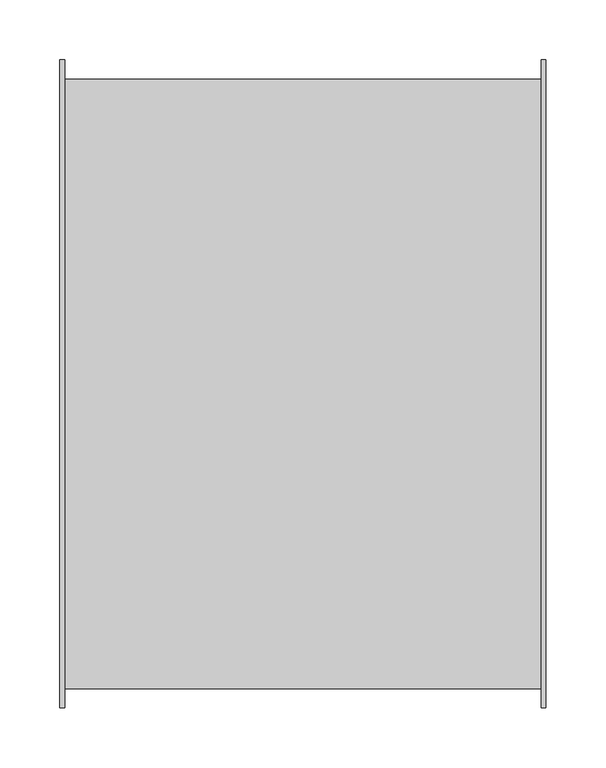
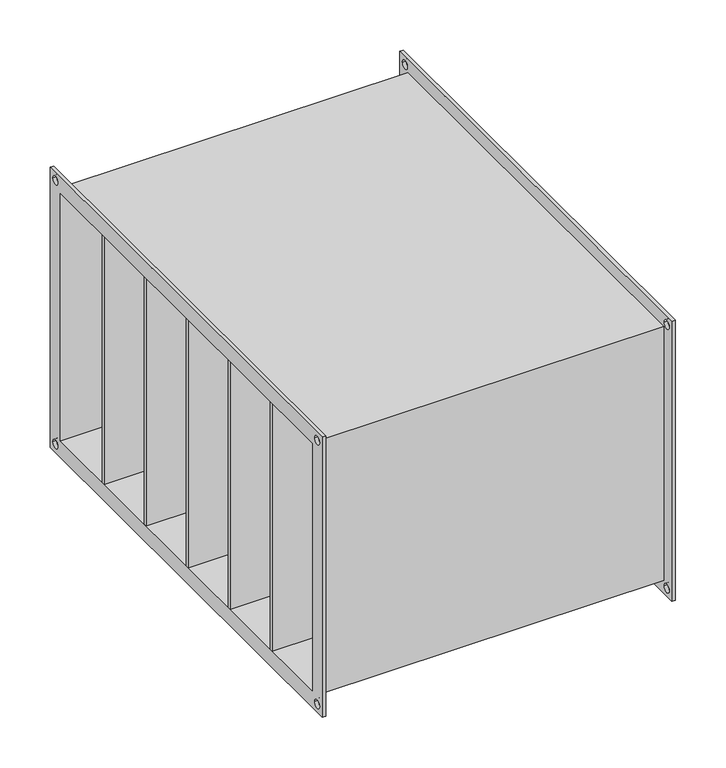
"""IFC4 building model written with IfcOpenShell, lengths in millimetres: damper geometry, СВ_ФильтрКарманныйУкороченный_КанальныйПрямоугольный_200-1000_SFPKU : SFPKU-500x300."""

from ifc_helpers import new_model, si_unit, frame, origin, place, context, project, spatial, polyline, circle_curve, outline, extrude, source, transform, mapped, element, save
from ifc_brep_helpers import plane_surface, revolved_surface, advanced_brep


def damper_3ba38145(model_context):
    return source(origin(), model_context, "Body", "SolidModel", [
        extrude(outline(polyline([(202.5, 166.6666667), (202.5, 162.6666667), (-202.5, 162.6666667), (-202.5, 166.6666667), (202.5, 166.6666667)])), frame((0.0, 0.0, -150.0), z_axis=(0.0, 0.0, 1.0), x_axis=(1.0, 0.0, 0.0)), (0.0, 0.0, 1.0), 300.0),
        extrude(outline(polyline([(202.5, 83.3333333), (202.5, 79.3333333), (-202.5, 79.3333333), (-202.5, 83.3333333), (202.5, 83.3333333)])), frame((0.0, 0.0, -150.0), z_axis=(0.0, 0.0, 1.0), x_axis=(1.0, 0.0, 0.0)), (0.0, 0.0, 1.0), 300.0),
        extrude(outline(polyline([(202.5, 0.0), (202.5, -4.0), (-202.5, -4.0), (-202.5, 0.0), (202.5, 0.0)])), frame((0.0, 0.0, -150.0), z_axis=(0.0, 0.0, 1.0), x_axis=(1.0, 0.0, 0.0)), (0.0, 0.0, 1.0), 300.0),
        extrude(outline(polyline([(202.5, -83.3333333), (202.5, -87.3333333), (-202.5, -87.3333333), (-202.5, -83.3333333), (202.5, -83.3333333)])), frame((0.0, 0.0, -150.0), z_axis=(0.0, 0.0, 1.0), x_axis=(1.0, 0.0, 0.0)), (0.0, 0.0, 1.0), 300.0),
        extrude(outline(polyline([(202.5, -166.6666667), (202.5, -170.6666667), (-202.5, -170.6666667), (-202.5, -166.6666667), (202.5, -166.6666667)])), frame((0.0, 0.0, -150.0), z_axis=(0.0, 0.0, 1.0), x_axis=(1.0, 0.0, 0.0)), (0.0, 0.0, 1.0), 300.0),
        advanced_brep(
        [(198.5, -254.0, 154.0), (-198.5, -254.0, 154.0), (-198.5, -254.0, -154.0), (198.5, -254.0, -154.0), (-198.5, 254.0, -154.0), (198.5, 254.0, -154.0), (-198.5, 254.0, 154.0), (198.5, 254.0, 154.0), (-202.5, -270.0, 170.0), (-202.5, 270.0, 170.0), (-202.5, 270.0, -170.0), (-202.5, -270.0, -170.0), (-202.5, -250.0, 150.0), (-202.5, -250.0, -150.0), (-202.5, 250.0, -150.0), (-202.5, 250.0, 150.0), (-202.5, 255.0, 160.0), (-202.5, 265.0, 160.0), (-202.5, -265.0, 160.0), (-202.5, -255.0, 160.0), (-202.5, -265.0, -160.0), (-202.5, -255.0, -160.0), (-202.5, 255.0, -160.0), (-202.5, 265.0, -160.0), (-198.5, -270.0, 170.0), (-198.5, -270.0, -170.0), (-198.5, 270.0, -170.0), (-198.5, 270.0, 170.0), (-198.5, 265.0, 160.0), (-198.5, 255.0, 160.0), (-198.5, -255.0, 160.0), (-198.5, -265.0, 160.0), (-198.5, -255.0, -160.0), (-198.5, -265.0, -160.0), (-198.5, 265.0, -160.0), (-198.5, 255.0, -160.0), (202.5, 250.0, 150.0), (202.5, -250.0, 150.0), (202.5, 250.0, -150.0), (202.5, -250.0, -150.0), (198.5, 270.0, 170.0), (198.5, 270.0, -170.0), (198.5, -270.0, -170.0), (198.5, -270.0, 170.0), (198.5, 255.0, 160.0), (198.5, 265.0, 160.0), (198.5, -265.0, 160.0), (198.5, -255.0, 160.0), (198.5, -265.0, -160.0), (198.5, -255.0, -160.0), (198.5, 255.0, -160.0), (198.5, 265.0, -160.0), (202.5, 270.0, 170.0), (202.5, -270.0, 170.0), (202.5, -270.0, -170.0), (202.5, 270.0, -170.0), (202.5, 265.0, 160.0), (202.5, 255.0, 160.0), (202.5, -255.0, 160.0), (202.5, -265.0, 160.0), (202.5, -255.0, -160.0), (202.5, -265.0, -160.0), (202.5, 265.0, -160.0), (202.5, 255.0, -160.0)],
        [
            (0, 1),
            (1, 2),
            (2, 3),
            (3, 0),
            (2, 4),
            (4, 5),
            (5, 3),
            (4, 6),
            (6, 7),
            (7, 5),
            (0, 7),
            (6, 1),
            (8, 9),
            (9, 10),
            (10, 11),
            (11, 8),
            (12, 13),
            (13, 14),
            (14, 15),
            (15, 12),
            (16, 17, circle_curve(frame((-202.5, 260.0, 160.0), z_axis=(1.0, 0.0, 0.0), x_axis=(0.0, 1.0, 0.0)), 5.0)),
            (17, 16, circle_curve(frame((-202.5, 260.0, 160.0), z_axis=(1.0, 0.0, 0.0), x_axis=(0.0, 1.0, 0.0)), 5.0)),
            (18, 19, circle_curve(frame((-202.5, -260.0, 160.0), z_axis=(1.0, 0.0, 0.0), x_axis=(0.0, 1.0, 0.0)), 5.0)),
            (19, 18, circle_curve(frame((-202.5, -260.0, 160.0), z_axis=(1.0, 0.0, 0.0), x_axis=(0.0, 1.0, 0.0)), 5.0)),
            (20, 21, circle_curve(frame((-202.5, -260.0, -160.0), z_axis=(1.0, 0.0, 0.0), x_axis=(0.0, 1.0, 0.0)), 5.0)),
            (21, 20, circle_curve(frame((-202.5, -260.0, -160.0), z_axis=(1.0, 0.0, 0.0), x_axis=(0.0, 1.0, 0.0)), 5.0)),
            (22, 23, circle_curve(frame((-202.5, 260.0, -160.0), z_axis=(1.0, 0.0, 0.0), x_axis=(0.0, 1.0, 0.0)), 5.0)),
            (23, 22, circle_curve(frame((-202.5, 260.0, -160.0), z_axis=(1.0, 0.0, 0.0), x_axis=(0.0, 1.0, 0.0)), 5.0)),
            (24, 25),
            (25, 26),
            (26, 27),
            (27, 24),
            (28, 29, circle_curve(frame((-198.5, 260.0, 160.0), z_axis=(-1.0, 0.0, 0.0), x_axis=(0.0, 1.0, 0.0)), 5.0)),
            (29, 28, circle_curve(frame((-198.5, 260.0, 160.0), z_axis=(-1.0, 0.0, 0.0), x_axis=(0.0, 1.0, 0.0)), 5.0)),
            (30, 31, circle_curve(frame((-198.5, -260.0, 160.0), z_axis=(-1.0, 0.0, 0.0), x_axis=(0.0, 1.0, 0.0)), 5.0)),
            (31, 30, circle_curve(frame((-198.5, -260.0, 160.0), z_axis=(-1.0, 0.0, 0.0), x_axis=(0.0, 1.0, 0.0)), 5.0)),
            (32, 33, circle_curve(frame((-198.5, -260.0, -160.0), z_axis=(-1.0, 0.0, 0.0), x_axis=(0.0, 1.0, 0.0)), 5.0)),
            (33, 32, circle_curve(frame((-198.5, -260.0, -160.0), z_axis=(-1.0, 0.0, 0.0), x_axis=(0.0, 1.0, 0.0)), 5.0)),
            (34, 35, circle_curve(frame((-198.5, 260.0, -160.0), z_axis=(-1.0, 0.0, 0.0), x_axis=(0.0, 1.0, 0.0)), 5.0)),
            (35, 34, circle_curve(frame((-198.5, 260.0, -160.0), z_axis=(-1.0, 0.0, 0.0), x_axis=(0.0, 1.0, 0.0)), 5.0)),
            (11, 25),
            (24, 8),
            (10, 26),
            (9, 27),
            (15, 36),
            (36, 37),
            (37, 12),
            (14, 38),
            (38, 36),
            (13, 39),
            (39, 38),
            (37, 39),
            (40, 41),
            (41, 42),
            (42, 43),
            (43, 40),
            (44, 45, circle_curve(frame((198.5, 260.0, 160.0), z_axis=(1.0, 0.0, 0.0), x_axis=(0.0, 1.0, 0.0)), 5.0)),
            (45, 44, circle_curve(frame((198.5, 260.0, 160.0), z_axis=(1.0, 0.0, 0.0), x_axis=(0.0, 1.0, 0.0)), 5.0)),
            (46, 47, circle_curve(frame((198.5, -260.0, 160.0), z_axis=(1.0, 0.0, 0.0), x_axis=(0.0, 1.0, 0.0)), 5.0)),
            (47, 46, circle_curve(frame((198.5, -260.0, 160.0), z_axis=(1.0, 0.0, 0.0), x_axis=(0.0, 1.0, 0.0)), 5.0)),
            (48, 49, circle_curve(frame((198.5, -260.0, -160.0), z_axis=(1.0, 0.0, 0.0), x_axis=(0.0, 1.0, 0.0)), 5.0)),
            (49, 48, circle_curve(frame((198.5, -260.0, -160.0), z_axis=(1.0, 0.0, 0.0), x_axis=(0.0, 1.0, 0.0)), 5.0)),
            (50, 51, circle_curve(frame((198.5, 260.0, -160.0), z_axis=(1.0, 0.0, 0.0), x_axis=(0.0, 1.0, 0.0)), 5.0)),
            (51, 50, circle_curve(frame((198.5, 260.0, -160.0), z_axis=(1.0, 0.0, 0.0), x_axis=(0.0, 1.0, 0.0)), 5.0)),
            (52, 53),
            (53, 54),
            (54, 55),
            (55, 52),
            (56, 57, circle_curve(frame((202.5, 260.0, 160.0), z_axis=(-1.0, 0.0, 0.0), x_axis=(0.0, 1.0, 0.0)), 5.0)),
            (57, 56, circle_curve(frame((202.5, 260.0, 160.0), z_axis=(-1.0, 0.0, 0.0), x_axis=(0.0, 1.0, 0.0)), 5.0)),
            (58, 59, circle_curve(frame((202.5, -260.0, 160.0), z_axis=(-1.0, 0.0, 0.0), x_axis=(0.0, 1.0, 0.0)), 5.0)),
            (59, 58, circle_curve(frame((202.5, -260.0, 160.0), z_axis=(-1.0, 0.0, 0.0), x_axis=(0.0, 1.0, 0.0)), 5.0)),
            (60, 61, circle_curve(frame((202.5, -260.0, -160.0), z_axis=(-1.0, 0.0, 0.0), x_axis=(0.0, 1.0, 0.0)), 5.0)),
            (61, 60, circle_curve(frame((202.5, -260.0, -160.0), z_axis=(-1.0, 0.0, 0.0), x_axis=(0.0, 1.0, 0.0)), 5.0)),
            (62, 63, circle_curve(frame((202.5, 260.0, -160.0), z_axis=(-1.0, 0.0, 0.0), x_axis=(0.0, 1.0, 0.0)), 5.0)),
            (63, 62, circle_curve(frame((202.5, 260.0, -160.0), z_axis=(-1.0, 0.0, 0.0), x_axis=(0.0, 1.0, 0.0)), 5.0)),
            (43, 53),
            (52, 40),
            (42, 54),
            (41, 55),
            (16, 29),
            (28, 17),
            (44, 57),
            (56, 45),
            (18, 31),
            (30, 19),
            (46, 59),
            (58, 47),
            (20, 33),
            (32, 21),
            (48, 61),
            (60, 49),
            (22, 35),
            (34, 23),
            (50, 63),
            (62, 51),
        ],
        [
            plane_surface(frame((198.5, -254.0, 154.0), z_axis=(0.0, -1.0, 0.0), x_axis=(-1.0, 0.0, 0.0))),
            plane_surface(frame((198.5, -254.0, -154.0), z_axis=(0.0, 0.0, -1.0), x_axis=(-1.0, 0.0, 0.0))),
            plane_surface(frame((198.5, 254.0, -154.0), z_axis=(0.0, 1.0, 0.0), x_axis=(-1.0, 0.0, 0.0))),
            plane_surface(frame((198.5, 254.0, 154.0), z_axis=(0.0, 0.0, 1.0), x_axis=(-1.0, 0.0, 0.0))),
            plane_surface(frame((-202.5, -270.0, 170.0), z_axis=(-1.0, 0.0, 0.0), x_axis=(0.0, 0.0, 1.0))),
            plane_surface(frame((-198.5, -270.0, 170.0), z_axis=(1.0, 0.0, 0.0), x_axis=(0.0, 0.0, -1.0))),
            plane_surface(frame((-198.5, -270.0, 170.0), z_axis=(0.0, -1.0, 0.0), x_axis=(-1.0, 0.0, 0.0))),
            plane_surface(frame((-198.5, -270.0, -170.0), z_axis=(0.0, 0.0, -1.0), x_axis=(-1.0, 0.0, 0.0))),
            plane_surface(frame((-198.5, 270.0, -170.0), z_axis=(0.0, 1.0, 0.0), x_axis=(-1.0, 0.0, 0.0))),
            plane_surface(frame((-198.5, 270.0, 170.0), z_axis=(0.0, 0.0, 1.0), x_axis=(-1.0, 0.0, 0.0))),
            plane_surface(frame((-198.5, -250.0, 150.0), z_axis=(0.0, 0.0, -1.0), x_axis=(-1.0, 0.0, 0.0))),
            plane_surface(frame((-198.5, 250.0, 150.0), z_axis=(0.0, -1.0, 0.0), x_axis=(-1.0, 0.0, 0.0))),
            plane_surface(frame((-198.5, 250.0, -150.0), z_axis=(0.0, 0.0, 1.0), x_axis=(-1.0, 0.0, 0.0))),
            plane_surface(frame((-198.5, -250.0, -150.0), z_axis=(0.0, 1.0, 0.0), x_axis=(-1.0, 0.0, 0.0))),
            plane_surface(frame((198.5, 250.0, -150.0), z_axis=(-1.0, 0.0, 0.0), x_axis=(0.0, 0.0, 1.0))),
            plane_surface(frame((202.5, 250.0, -150.0), z_axis=(1.0, 0.0, 0.0), x_axis=(0.0, 0.0, -1.0))),
            plane_surface(frame((202.5, 270.0, 170.0), z_axis=(0.0, 0.0, 1.0), x_axis=(-1.0, 0.0, 0.0))),
            plane_surface(frame((202.5, -270.0, 170.0), z_axis=(0.0, -1.0, 0.0), x_axis=(-1.0, 0.0, 0.0))),
            plane_surface(frame((202.5, -270.0, -170.0), z_axis=(0.0, 0.0, -1.0), x_axis=(-1.0, 0.0, 0.0))),
            plane_surface(frame((202.5, 270.0, -170.0), z_axis=(0.0, 1.0, 0.0), x_axis=(-1.0, 0.0, 0.0))),
            revolved_surface(polyline([(-198.5, 265.0, 160.0), (-202.5, 265.0, 160.0)]), (-202.5, 260.0, 160.0), (1.0, 0.0, 0.0)),
            revolved_surface(polyline([(202.5, 265.0, 160.0), (198.5, 265.0, 160.0)]), (-202.5, 260.0, 160.0), (1.0, 0.0, 0.0)),
            revolved_surface(polyline([(-198.5, -255.0, 160.0), (-202.5, -255.0, 160.0)]), (0.0, -260.0, 160.0), (1.0, 0.0, 0.0)),
            revolved_surface(polyline([(202.5, -255.0, 160.0), (198.5, -255.0, 160.0)]), (0.0, -260.0, 160.0), (1.0, 0.0, 0.0)),
            revolved_surface(polyline([(-198.5, -255.0, -160.0), (-202.5, -255.0, -160.0)]), (0.0, -260.0, -160.0), (1.0, 0.0, 0.0)),
            revolved_surface(polyline([(202.5, -255.0, -160.0), (198.5, -255.0, -160.0)]), (0.0, -260.0, -160.0), (1.0, 0.0, 0.0)),
            revolved_surface(polyline([(-198.5, 265.0, -160.0), (-202.5, 265.0, -160.0)]), (0.0, 260.0, -160.0), (1.0, 0.0, 0.0)),
            revolved_surface(polyline([(202.5, 265.0, -160.0), (198.5, 265.0, -160.0)]), (0.0, 260.0, -160.0), (1.0, 0.0, 0.0)),
        ],
        [
            (0, [[1, 2, 3, 4]]),
            (1, [[-3, 5, 6, 7]]),
            (2, [[-6, 8, 9, 10]]),
            (3, [[-1, 11, -9, 12]]),
            (4, [[13, 14, 15, 16], [17, 18, 19, 20], [21, 22], [23, 24], [25, 26], [27, 28]]),
            (5, [[29, 30, 31, 32], [-2, -12, -8, -5], [33, 34], [35, 36], [37, 38], [39, 40]]),
            (6, [[-16, 41, -29, 42]]),
            (7, [[-15, 43, -30, -41]]),
            (8, [[-14, 44, -31, -43]]),
            (9, [[-13, -42, -32, -44]]),
            (10, [[-20, 45, 46, 47]]),
            (11, [[-45, -19, 48, 49]]),
            (12, [[-48, -18, 50, 51]]),
            (13, [[-50, -17, -47, 52]]),
            (14, [[53, 54, 55, 56], [-4, -7, -10, -11], [57, 58], [59, 60], [61, 62], [63, 64]]),
            (15, [[65, 66, 67, 68], [-49, -51, -52, -46], [69, 70], [71, 72], [73, 74], [75, 76]]),
            (16, [[-56, 77, -65, 78]]),
            (17, [[-55, 79, -66, -77]]),
            (18, [[-54, 80, -67, -79]]),
            (19, [[-53, -78, -68, -80]]),
            (20, [[81, -33, 82, -21]]),
            (21, [[83, -69, 84, -57]]),
            (20, [[-81, -22, -82, -34]]),
            (21, [[-83, -58, -84, -70]]),
            (22, [[85, -35, 86, -23]]),
            (23, [[87, -71, 88, -59]]),
            (22, [[-85, -24, -86, -36]]),
            (23, [[-87, -60, -88, -72]]),
            (24, [[89, -37, 90, -25]]),
            (25, [[91, -73, 92, -61]]),
            (24, [[-89, -26, -90, -38]]),
            (25, [[-91, -62, -92, -74]]),
            (26, [[93, -39, 94, -27]]),
            (27, [[95, -75, 96, -63]]),
            (26, [[-93, -28, -94, -40]]),
            (27, [[-95, -64, -96, -76]]),
        ],
    ),
    ])


if __name__ == "__main__":
    model = new_model("IFC4")
    model_context = context("Model", 3, world=origin())
    ifc_project = project(units=[si_unit("LENGTHUNIT", "METRE", prefix="MILLI")], contexts=[model_context])
    site = spatial("IfcSite", under=ifc_project)
    building = spatial("IfcBuilding", under=site)
    placement = place(None, origin())
    damper_shape = damper_3ba38145(model_context)
    element("IfcDamper", 1, ObjectType="СВ_ФильтрКарманныйУкороченный_КанальныйПрямоугольный_200-1000_SFPKU : SFPKU-500x300", at=placement, inside=building, context=model_context, shape_type="MappedRepresentation", body=[
        mapped(damper_shape, transform((0.0, 0.0, 0.0), x_axis=(1.0, 0.0, 0.0), y_axis=(0.0, 1.0, 0.0), z_axis=(0.0, 0.0, 1.0))),
    ])
    save(model, "model.ifc")
